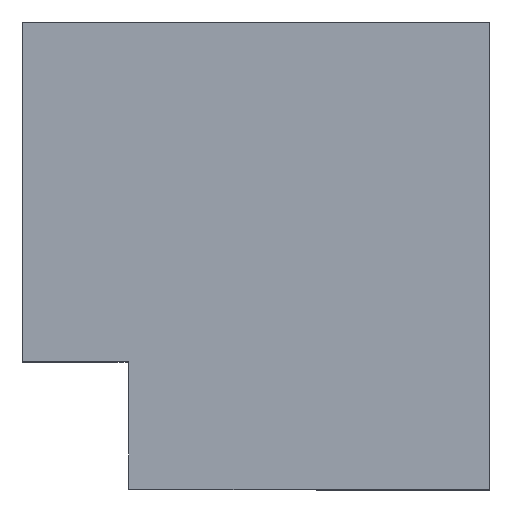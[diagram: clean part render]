
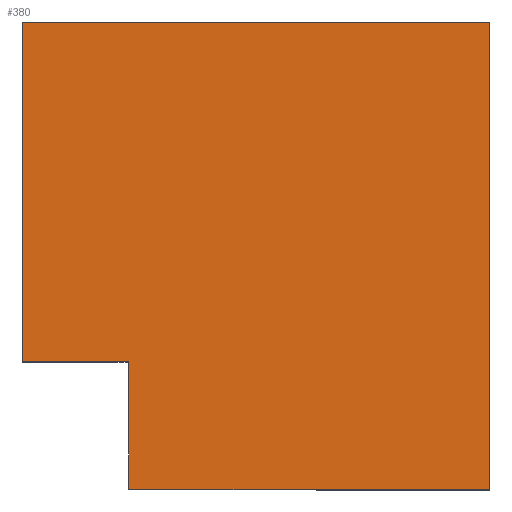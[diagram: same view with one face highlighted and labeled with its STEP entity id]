
A CAD part, top view. The second image highlights one B-rep face of the part: STEP entity #380.
In plain terms, the highlighted planar face has unit normal (0, 0, 1).
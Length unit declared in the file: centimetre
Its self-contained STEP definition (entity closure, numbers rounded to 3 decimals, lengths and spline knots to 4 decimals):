
#3 = DIRECTION ( 'NONE',  ( -1., 0., 0. ) ) ;
#12 = CARTESIAN_POINT ( 'NONE',  ( 1000., 0., 1000. ) ) ;
#26 = ORIENTED_EDGE ( 'NONE', *, *, #408, .T. ) ;
#33 = AXIS2_PLACEMENT_3D ( 'NONE', #376, #417, #108 ) ;
#43 = VERTEX_POINT ( 'NONE', #12 ) ;
#44 = VERTEX_POINT ( 'NONE', #82 ) ;
#48 = EDGE_CURVE ( 'NONE', #278, #324, #322, .T. ) ;
#54 = LINE ( 'NONE', #93, #346 ) ;
#62 = CARTESIAN_POINT ( 'NONE',  ( 0., 1000., 1000. ) ) ;
#65 = LINE ( 'NONE', #197, #425 ) ;
#67 = FACE_OUTER_BOUND ( 'NONE', #384, .T. ) ;
#81 = ORIENTED_EDGE ( 'NONE', *, *, #97, .F. ) ;
#82 = CARTESIAN_POINT ( 'NONE',  ( 227.6404, 273.316, 1000. ) ) ;
#93 = CARTESIAN_POINT ( 'NONE',  ( 0., 0., 1000. ) ) ;
#97 = EDGE_CURVE ( 'NONE', #44, #324, #325, .T. ) ;
#102 = CARTESIAN_POINT ( 'NONE',  ( 1000., 1000., 1000. ) ) ;
#107 = VECTOR ( 'NONE', #137, 100. ) ;
#108 = DIRECTION ( 'NONE',  ( 1., 0., 0. ) ) ;
#115 = VECTOR ( 'NONE', #221, 100. ) ;
#137 = DIRECTION ( 'NONE',  ( 0., -1., 0. ) ) ;
#140 = ORIENTED_EDGE ( 'NONE', *, *, #302, .T. ) ;
#151 = CARTESIAN_POINT ( 'NONE',  ( 0., 273.316, 1000. ) ) ;
#154 = VECTOR ( 'NONE', #292, 100. ) ;
#168 = CARTESIAN_POINT ( 'NONE',  ( 0., 1000., 1000. ) ) ;
#180 = ORIENTED_EDGE ( 'NONE', *, *, #279, .T. ) ;
#187 = VERTEX_POINT ( 'NONE', #337 ) ;
#197 = CARTESIAN_POINT ( 'NONE',  ( 1000., 1000., 1000. ) ) ;
#200 = DIRECTION ( 'NONE',  ( 1., 0., 0. ) ) ;
#208 = CARTESIAN_POINT ( 'NONE',  ( 0., 273.316, 1000. ) ) ;
#221 = DIRECTION ( 'NONE',  ( 0., -1., 0. ) ) ;
#243 = LINE ( 'NONE', #413, #107 ) ;
#260 = LINE ( 'NONE', #168, #313 ) ;
#278 = VERTEX_POINT ( 'NONE', #62 ) ;
#279 = EDGE_CURVE ( 'NONE', #187, #43, #54, .T. ) ;
#292 = DIRECTION ( 'NONE',  ( -1., 0., 0. ) ) ;
#302 = EDGE_CURVE ( 'NONE', #43, #335, #65, .T. ) ;
#313 = VECTOR ( 'NONE', #3, 100. ) ;
#314 = EDGE_CURVE ( 'NONE', #335, #278, #260, .T. ) ;
#322 = LINE ( 'NONE', #351, #115 ) ;
#324 = VERTEX_POINT ( 'NONE', #208 ) ;
#325 = LINE ( 'NONE', #151, #154 ) ;
#332 = DIRECTION ( 'NONE',  ( 0., 1., 0. ) ) ;
#335 = VERTEX_POINT ( 'NONE', #102 ) ;
#337 = CARTESIAN_POINT ( 'NONE',  ( 227.6404, 0., 1000. ) ) ;
#343 = PLANE ( 'NONE',  #33 ) ;
#346 = VECTOR ( 'NONE', #200, 100. ) ;
#349 = ORIENTED_EDGE ( 'NONE', *, *, #314, .T. ) ;
#351 = CARTESIAN_POINT ( 'NONE',  ( 0., 1000., 1000. ) ) ;
#376 = CARTESIAN_POINT ( 'NONE',  ( 0., 0., 1000. ) ) ;
#380 = ADVANCED_FACE ( 'NONE', ( #67 ), #343, .T. ) ;
#384 = EDGE_LOOP ( 'NONE', ( #26, #180, #140, #349, #436, #81 ) ) ;
#408 = EDGE_CURVE ( 'NONE', #44, #187, #243, .T. ) ;
#413 = CARTESIAN_POINT ( 'NONE',  ( 227.6404, 273.316, 1000. ) ) ;
#417 = DIRECTION ( 'NONE',  ( 0., 0., 1. ) ) ;
#425 = VECTOR ( 'NONE', #332, 100. ) ;
#436 = ORIENTED_EDGE ( 'NONE', *, *, #48, .T. ) ;
